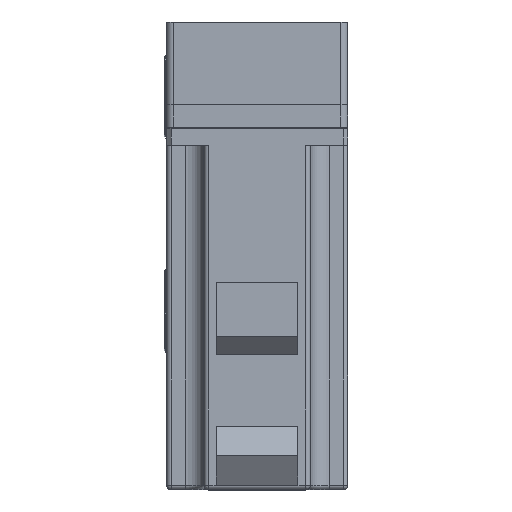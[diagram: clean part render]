
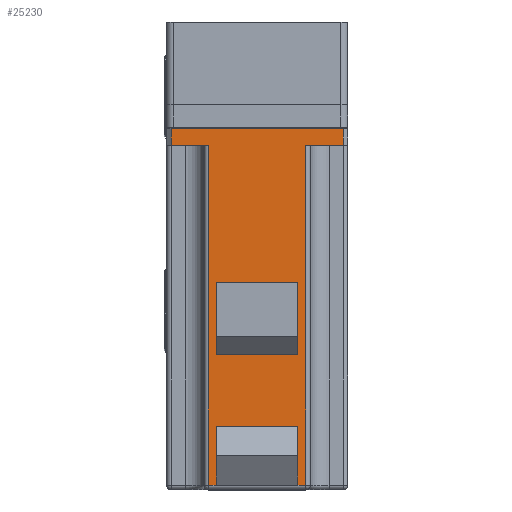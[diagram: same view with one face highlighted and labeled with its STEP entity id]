
A CAD part, top view. The second image highlights one B-rep face of the part: STEP entity #25230.
In plain terms, the highlighted planar face has unit normal (0, 0, 1).
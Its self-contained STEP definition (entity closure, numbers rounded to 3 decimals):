
#20 = ORIENTED_EDGE ( 'NONE', *, *, #44388, .T. ) ;
#196 = VERTEX_POINT ( 'NONE', #10128 ) ;
#740 = DIRECTION ( 'NONE',  ( -1., 0., 0. ) ) ;
#1232 = DIRECTION ( 'NONE',  ( 0., 1., 0. ) ) ;
#1745 = VECTOR ( 'NONE', #28499, 1000. ) ;
#1888 = VECTOR ( 'NONE', #1232, 1000. ) ;
#1928 = DIRECTION ( 'NONE',  ( 1., 0., 0. ) ) ;
#2000 = CARTESIAN_POINT ( 'NONE',  ( 0.5, -43.13, 31.724 ) ) ;
#2817 = LINE ( 'NONE', #30121, #39767 ) ;
#3273 = VERTEX_POINT ( 'NONE', #14123 ) ;
#5201 = VERTEX_POINT ( 'NONE', #6178 ) ;
#5260 = VERTEX_POINT ( 'NONE', #38920 ) ;
#5277 = LINE ( 'NONE', #44457, #31920 ) ;
#5356 = VECTOR ( 'NONE', #24776, 1000. ) ;
#5466 = VERTEX_POINT ( 'NONE', #15927 ) ;
#5573 = EDGE_CURVE ( 'NONE', #28313, #13519, #15556, .T. ) ;
#5590 = EDGE_CURVE ( 'NONE', #5260, #23209, #5277, .T. ) ;
#5688 = CARTESIAN_POINT ( 'NONE',  ( 160., -26.63, 31.724 ) ) ;
#5883 = DIRECTION ( 'NONE',  ( 0., -1., 0. ) ) ;
#6044 = EDGE_CURVE ( 'NONE', #3273, #5201, #27382, .T. ) ;
#6178 = CARTESIAN_POINT ( 'NONE',  ( 8., 16.37, 31.724 ) ) ;
#6402 = LINE ( 'NONE', #45043, #42244 ) ;
#7576 = VECTOR ( 'NONE', #740, 1000. ) ;
#7742 = DIRECTION ( 'NONE',  ( 1., 0., 0. ) ) ;
#7743 = EDGE_LOOP ( 'NONE', ( #35263, #20334, #22908, #17708, #7934, #22190, #27622, #20, #20916, #12456, #11422, #35927 ) ) ;
#7934 = ORIENTED_EDGE ( 'NONE', *, *, #25426, .T. ) ;
#7939 = VECTOR ( 'NONE', #33811, 1000. ) ;
#8939 = VECTOR ( 'NONE', #5883, 1000. ) ;
#9898 = DIRECTION ( 'NONE',  ( 0., -1., 0. ) ) ;
#9920 = LINE ( 'NONE', #10803, #1745 ) ;
#10128 = CARTESIAN_POINT ( 'NONE',  ( 100.5, -23.13, 31.724 ) ) ;
#10295 = DIRECTION ( 'NONE',  ( -1., 0., 0. ) ) ;
#10803 = CARTESIAN_POINT ( 'NONE',  ( 68.5, -23.13, 31.724 ) ) ;
#10959 = VERTEX_POINT ( 'NONE', #2000 ) ;
#11018 = LINE ( 'NONE', #38857, #27268 ) ;
#11422 = ORIENTED_EDGE ( 'NONE', *, *, #36534, .T. ) ;
#11701 = CARTESIAN_POINT ( 'NONE',  ( 100.5, 12.87, 31.724 ) ) ;
#11798 = EDGE_CURVE ( 'NONE', #25407, #34945, #27122, .T. ) ;
#11968 = VECTOR ( 'NONE', #1928, 1000. ) ;
#12269 = LINE ( 'NONE', #44107, #21484 ) ;
#12336 = CARTESIAN_POINT ( 'NONE',  ( 0.5, 32.87, 31.724 ) ) ;
#12456 = ORIENTED_EDGE ( 'NONE', *, *, #5590, .F. ) ;
#12556 = DIRECTION ( 'NONE',  ( 0., 0., -1. ) ) ;
#13457 = DIRECTION ( 'NONE',  ( 0., -1., 0. ) ) ;
#13519 = VERTEX_POINT ( 'NONE', #29836 ) ;
#13843 = CARTESIAN_POINT ( 'NONE',  ( 158., 16.37, 31.724 ) ) ;
#14123 = CARTESIAN_POINT ( 'NONE',  ( 8., 32.87, 31.724 ) ) ;
#14523 = CARTESIAN_POINT ( 'NONE',  ( 132., 12.87, 31.724 ) ) ;
#15493 = CARTESIAN_POINT ( 'NONE',  ( 158., -26.63, 31.724 ) ) ;
#15556 = LINE ( 'NONE', #40994, #34105 ) ;
#15883 = EDGE_CURVE ( 'NONE', #196, #5466, #38841, .T. ) ;
#15927 = CARTESIAN_POINT ( 'NONE',  ( 100.5, 12.87, 31.724 ) ) ;
#15973 = DIRECTION ( 'NONE',  ( 1., 0., 0. ) ) ;
#16239 = CARTESIAN_POINT ( 'NONE',  ( 158., -23.13, 31.724 ) ) ;
#16683 = DIRECTION ( 'NONE',  ( 0., -1., 0. ) ) ;
#16698 = EDGE_LOOP ( 'NONE', ( #20332, #37075, #37003, #38990 ) ) ;
#16790 = LINE ( 'NONE', #14523, #7576 ) ;
#16797 = VECTOR ( 'NONE', #13457, 1000. ) ;
#17160 = LINE ( 'NONE', #23421, #7939 ) ;
#17708 = ORIENTED_EDGE ( 'NONE', *, *, #23305, .T. ) ;
#18749 = EDGE_CURVE ( 'NONE', #3273, #20610, #33092, .T. ) ;
#19226 = CARTESIAN_POINT ( 'NONE',  ( 158., 12.87, 31.724 ) ) ;
#20170 = VECTOR ( 'NONE', #10295, 1000. ) ;
#20332 = ORIENTED_EDGE ( 'NONE', *, *, #33031, .F. ) ;
#20334 = ORIENTED_EDGE ( 'NONE', *, *, #11798, .F. ) ;
#20432 = CARTESIAN_POINT ( 'NONE',  ( 132., 12.87, 31.724 ) ) ;
#20610 = VERTEX_POINT ( 'NONE', #12336 ) ;
#20916 = ORIENTED_EDGE ( 'NONE', *, *, #24969, .T. ) ;
#21484 = VECTOR ( 'NONE', #37189, 1000. ) ;
#21718 = EDGE_CURVE ( 'NONE', #41839, #24680, #2817, .T. ) ;
#22190 = ORIENTED_EDGE ( 'NONE', *, *, #6044, .F. ) ;
#22908 = ORIENTED_EDGE ( 'NONE', *, *, #39813, .F. ) ;
#23170 = CARTESIAN_POINT ( 'NONE',  ( 160., -45.13, 31.724 ) ) ;
#23172 = CARTESIAN_POINT ( 'NONE',  ( 8., 34.87, 31.724 ) ) ;
#23209 = VERTEX_POINT ( 'NONE', #40151 ) ;
#23305 = EDGE_CURVE ( 'NONE', #30274, #40698, #17160, .T. ) ;
#23421 = CARTESIAN_POINT ( 'NONE',  ( 158., -45.13, 31.724 ) ) ;
#24224 = DIRECTION ( 'NONE',  ( 0., -1., 0. ) ) ;
#24513 = FACE_OUTER_BOUND ( 'NONE', #7743, .T. ) ;
#24680 = VERTEX_POINT ( 'NONE', #16239 ) ;
#24776 = DIRECTION ( 'NONE',  ( -1., 0., 0. ) ) ;
#24952 = EDGE_CURVE ( 'NONE', #13519, #196, #9920, .T. ) ;
#24969 = EDGE_CURVE ( 'NONE', #10959, #23209, #11018, .T. ) ;
#25230 = ADVANCED_FACE ( 'NONE', ( #34881, #24513 ), #26673, .F. ) ;
#25407 = VERTEX_POINT ( 'NONE', #20432 ) ;
#25426 = EDGE_CURVE ( 'NONE', #40698, #5201, #36478, .T. ) ;
#26193 = VECTOR ( 'NONE', #15973, 1000. ) ;
#26673 = PLANE ( 'NONE',  #32269 ) ;
#27122 = LINE ( 'NONE', #34155, #16797 ) ;
#27268 = VECTOR ( 'NONE', #7742, 1000. ) ;
#27382 = LINE ( 'NONE', #23172, #8939 ) ;
#27622 = ORIENTED_EDGE ( 'NONE', *, *, #18749, .T. ) ;
#28284 = CARTESIAN_POINT ( 'NONE',  ( 160., 32.87, 31.724 ) ) ;
#28313 = VERTEX_POINT ( 'NONE', #37754 ) ;
#28499 = DIRECTION ( 'NONE',  ( 1., 0., 0. ) ) ;
#29836 = CARTESIAN_POINT ( 'NONE',  ( 68.5, -23.13, 31.724 ) ) ;
#30121 = CARTESIAN_POINT ( 'NONE',  ( 158., -45.13, 31.724 ) ) ;
#30175 = DIRECTION ( 'NONE',  ( -1., 0., 0. ) ) ;
#30274 = VERTEX_POINT ( 'NONE', #19226 ) ;
#30436 = LINE ( 'NONE', #39905, #11968 ) ;
#31077 = CARTESIAN_POINT ( 'NONE',  ( 160., 16.37, 31.724 ) ) ;
#31239 = EDGE_CURVE ( 'NONE', #34945, #24680, #30436, .T. ) ;
#31920 = VECTOR ( 'NONE', #9898, 1000. ) ;
#32269 = AXIS2_PLACEMENT_3D ( 'NONE', #23170, #12556, #30175 ) ;
#33031 = EDGE_CURVE ( 'NONE', #5466, #28313, #12269, .T. ) ;
#33092 = LINE ( 'NONE', #28284, #5356 ) ;
#33811 = DIRECTION ( 'NONE',  ( 0., 1., 0. ) ) ;
#34105 = VECTOR ( 'NONE', #16683, 1000. ) ;
#34155 = CARTESIAN_POINT ( 'NONE',  ( 132., 12.87, 31.724 ) ) ;
#34586 = CARTESIAN_POINT ( 'NONE',  ( 132., -23.13, 31.724 ) ) ;
#34881 = FACE_BOUND ( 'NONE', #16698, .T. ) ;
#34945 = VERTEX_POINT ( 'NONE', #34586 ) ;
#35263 = ORIENTED_EDGE ( 'NONE', *, *, #31239, .F. ) ;
#35927 = ORIENTED_EDGE ( 'NONE', *, *, #21718, .T. ) ;
#36478 = LINE ( 'NONE', #31077, #20170 ) ;
#36534 = EDGE_CURVE ( 'NONE', #5260, #41839, #44652, .T. ) ;
#36816 = DIRECTION ( 'NONE',  ( 0., 1., 0. ) ) ;
#37003 = ORIENTED_EDGE ( 'NONE', *, *, #24952, .F. ) ;
#37075 = ORIENTED_EDGE ( 'NONE', *, *, #15883, .F. ) ;
#37189 = DIRECTION ( 'NONE',  ( -1., 0., 0. ) ) ;
#37754 = CARTESIAN_POINT ( 'NONE',  ( 68.5, 12.87, 31.724 ) ) ;
#38841 = LINE ( 'NONE', #11701, #1888 ) ;
#38857 = CARTESIAN_POINT ( 'NONE',  ( 160., -43.13, 31.724 ) ) ;
#38920 = CARTESIAN_POINT ( 'NONE',  ( 8., -26.63, 31.724 ) ) ;
#38990 = ORIENTED_EDGE ( 'NONE', *, *, #5573, .F. ) ;
#39767 = VECTOR ( 'NONE', #36816, 1000. ) ;
#39813 = EDGE_CURVE ( 'NONE', #30274, #25407, #16790, .T. ) ;
#39905 = CARTESIAN_POINT ( 'NONE',  ( 132., -23.13, 31.724 ) ) ;
#40151 = CARTESIAN_POINT ( 'NONE',  ( 8., -43.13, 31.724 ) ) ;
#40698 = VERTEX_POINT ( 'NONE', #13843 ) ;
#40994 = CARTESIAN_POINT ( 'NONE',  ( 68.5, 12.87, 31.724 ) ) ;
#41839 = VERTEX_POINT ( 'NONE', #15493 ) ;
#42244 = VECTOR ( 'NONE', #24224, 1000. ) ;
#44107 = CARTESIAN_POINT ( 'NONE',  ( 68.5, 12.87, 31.724 ) ) ;
#44388 = EDGE_CURVE ( 'NONE', #20610, #10959, #6402, .T. ) ;
#44457 = CARTESIAN_POINT ( 'NONE',  ( 8., -45.13, 31.724 ) ) ;
#44652 = LINE ( 'NONE', #5688, #26193 ) ;
#45043 = CARTESIAN_POINT ( 'NONE',  ( 0.5, -43.13, 31.724 ) ) ;
